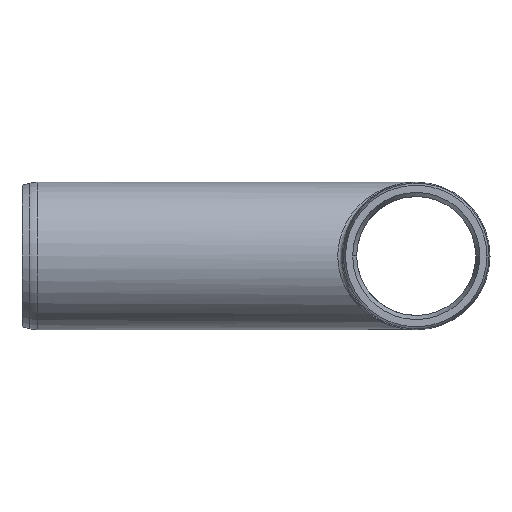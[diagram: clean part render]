
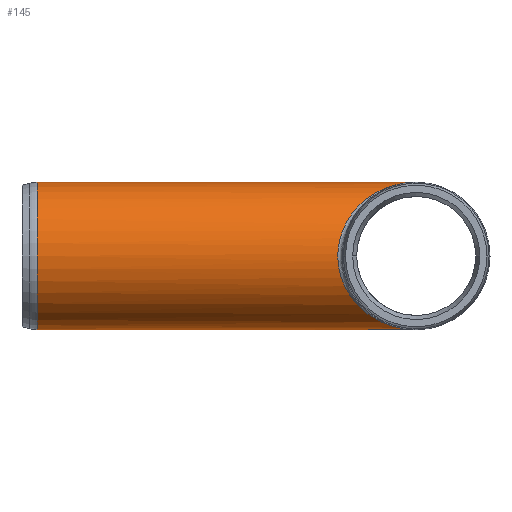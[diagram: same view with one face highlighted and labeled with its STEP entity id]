
A CAD part, front view. The second image highlights one B-rep face of the part: STEP entity #145.
In plain terms, the highlighted cylindrical face has radius 16.1 mm (diameter 32.2 mm), a partial arc.
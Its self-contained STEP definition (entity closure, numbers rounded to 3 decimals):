
#30 = DIRECTION ( 'NONE',  ( 1., 0., 0. ) ) ;
#84 = CARTESIAN_POINT ( 'NONE',  ( -34.2, -32.2, 16.1 ) ) ;
#106 = CARTESIAN_POINT ( 'NONE',  ( 0., 0., -16.1 ) ) ;
#115 = CARTESIAN_POINT ( 'NONE',  ( -82.71, 0., 0. ) ) ;
#145 = ADVANCED_FACE ( 'NONE', ( #271 ), #740, .T. ) ;
#167 = ORIENTED_EDGE ( 'NONE', *, *, #705, .T. ) ;
#216 = CARTESIAN_POINT ( 'NONE',  ( -34.2, -32.2, -16.1 ) ) ;
#218 = AXIS2_PLACEMENT_3D ( 'NONE', #115, #1456, #586 ) ;
#239 = CARTESIAN_POINT ( 'NONE',  ( -82.71, 0., 16.1 ) ) ;
#271 = FACE_OUTER_BOUND ( 'NONE', #805, .T. ) ;
#378 = CARTESIAN_POINT ( 'NONE',  ( -86., 0., 16.1 ) ) ;
#439 = DIRECTION ( 'NONE',  ( 1., 0., 0. ) ) ;
#449 = DIRECTION ( 'NONE',  ( 0., 0., -1. ) ) ;
#457 = CARTESIAN_POINT ( 'NONE',  ( 0., 0., 16.1 ) ) ;
#493 = EDGE_CURVE ( 'NONE', #1308, #619, #1197, .T. ) ;
#534 = CARTESIAN_POINT ( 'NONE',  ( -86., 0., 0. ) ) ;
#582 = CARTESIAN_POINT ( 'NONE',  ( 0., 0., 16.1 ) ) ;
#586 = DIRECTION ( 'NONE',  ( 0., 0., 1. ) ) ;
#619 = VERTEX_POINT ( 'NONE', #457 ) ;
#623 = CARTESIAN_POINT ( 'NONE',  ( -82.71, 0., -16.1 ) ) ;
#662 = ORIENTED_EDGE ( 'NONE', *, *, #1520, .F. ) ;
#663 = VECTOR ( 'NONE', #439, 1000. ) ;
#705 = EDGE_CURVE ( 'NONE', #725, #839, #1095, .T. ) ;
#725 = VERTEX_POINT ( 'NONE', #239 ) ;
#740 = CYLINDRICAL_SURFACE ( 'NONE', #1469, 16.1 ) ;
#765 = LINE ( 'NONE', #1250, #663 ) ;
#805 = EDGE_LOOP ( 'NONE', ( #662, #167, #915, #1533 ) ) ;
#839 = VERTEX_POINT ( 'NONE', #623 ) ;
#844 = LINE ( 'NONE', #378, #1069 ) ;
#915 = ORIENTED_EDGE ( 'NONE', *, *, #1270, .T. ) ;
#948 = CARTESIAN_POINT ( 'NONE',  ( 0., 0., -16.1 ) ) ;
#1017 = DIRECTION ( 'NONE',  ( 1., 0., 0. ) ) ;
#1069 = VECTOR ( 'NONE', #30, 1000. ) ;
#1095 = CIRCLE ( 'NONE', #218, 16.1 ) ;
#1197 =( BOUNDED_CURVE ( )  B_SPLINE_CURVE ( 3, ( #106, #216, #84, #582 ),
 .UNSPECIFIED., .F., .T. ) 
 B_SPLINE_CURVE_WITH_KNOTS ( ( 4, 4 ),
 ( 1.571, 4.712 ),
 .UNSPECIFIED. ) 
 CURVE ( )  GEOMETRIC_REPRESENTATION_ITEM ( )  RATIONAL_B_SPLINE_CURVE ( ( 1., 0.333, 0.333, 1. ) ) 
 REPRESENTATION_ITEM ( '' )  );
#1250 = CARTESIAN_POINT ( 'NONE',  ( -86., 0., -16.1 ) ) ;
#1270 = EDGE_CURVE ( 'NONE', #839, #1308, #765, .T. ) ;
#1308 = VERTEX_POINT ( 'NONE', #948 ) ;
#1456 = DIRECTION ( 'NONE',  ( 1., 0., 0. ) ) ;
#1469 = AXIS2_PLACEMENT_3D ( 'NONE', #534, #1017, #449 ) ;
#1520 = EDGE_CURVE ( 'NONE', #725, #619, #844, .T. ) ;
#1533 = ORIENTED_EDGE ( 'NONE', *, *, #493, .T. ) ;
